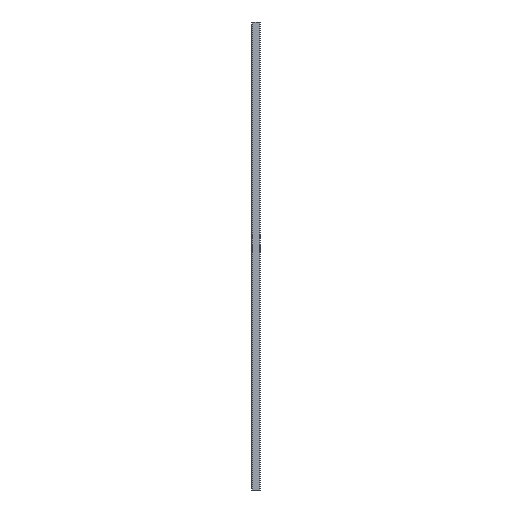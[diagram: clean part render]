
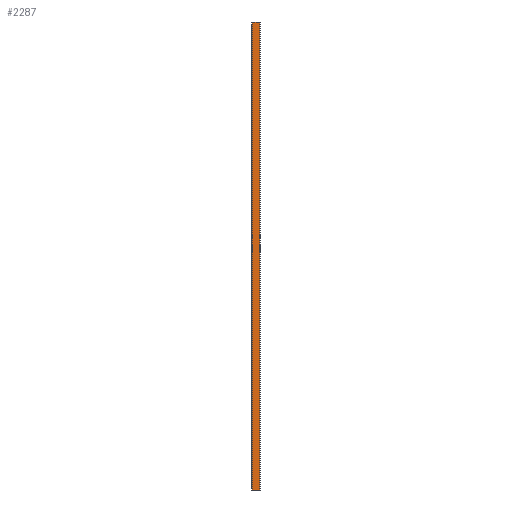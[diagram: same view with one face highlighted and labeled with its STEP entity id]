
A CAD part, left-side view. The second image highlights one B-rep face of the part: STEP entity #2287.
In plain terms, the highlighted planar face has unit normal (-1, 0, 0).
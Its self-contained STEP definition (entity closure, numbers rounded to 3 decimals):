
#65 = VERTEX_POINT ( 'NONE', #2348 ) ;
#80 = CARTESIAN_POINT ( 'NONE',  ( -8., 0., 0. ) ) ;
#112 = EDGE_CURVE ( 'NONE', #195, #1509, #1902, .T. ) ;
#167 = PLANE ( 'NONE',  #755 ) ;
#184 = FACE_OUTER_BOUND ( 'NONE', #631, .T. ) ;
#195 = VERTEX_POINT ( 'NONE', #908 ) ;
#202 = CARTESIAN_POINT ( 'NONE',  ( -8., 0., 679. ) ) ;
#224 = VECTOR ( 'NONE', #892, 1000. ) ;
#239 = EDGE_CURVE ( 'NONE', #2170, #645, #1327, .T. ) ;
#352 = DIRECTION ( 'NONE',  ( 0., 1., 0. ) ) ;
#369 = CARTESIAN_POINT ( 'NONE',  ( -8., 0., 0. ) ) ;
#552 = LINE ( 'NONE', #1422, #2351 ) ;
#631 = EDGE_LOOP ( 'NONE', ( #1636, #1175, #1451, #2086, #1094, #748, #1292, #1894 ) ) ;
#645 = VERTEX_POINT ( 'NONE', #1548 ) ;
#688 = DIRECTION ( 'NONE',  ( 0., 0., -1. ) ) ;
#748 = ORIENTED_EDGE ( 'NONE', *, *, #1922, .T. ) ;
#755 = AXIS2_PLACEMENT_3D ( 'NONE', #1016, #1898, #2758 ) ;
#770 = DIRECTION ( 'NONE',  ( 0., 1., 0. ) ) ;
#773 = CARTESIAN_POINT ( 'NONE',  ( -8., 12.5, 679. ) ) ;
#892 = DIRECTION ( 'NONE',  ( 0., 1., 0. ) ) ;
#908 = CARTESIAN_POINT ( 'NONE',  ( -8., 3.2, 679. ) ) ;
#912 = CARTESIAN_POINT ( 'NONE',  ( -8., 0., 0. ) ) ;
#938 = VECTOR ( 'NONE', #1448, 1000. ) ;
#1000 = LINE ( 'NONE', #369, #2475 ) ;
#1016 = CARTESIAN_POINT ( 'NONE',  ( -8., 0., 679. ) ) ;
#1075 = VECTOR ( 'NONE', #2047, 1000. ) ;
#1094 = ORIENTED_EDGE ( 'NONE', *, *, #1227, .T. ) ;
#1175 = ORIENTED_EDGE ( 'NONE', *, *, #1804, .T. ) ;
#1227 = EDGE_CURVE ( 'NONE', #195, #2439, #1512, .T. ) ;
#1292 = ORIENTED_EDGE ( 'NONE', *, *, #239, .T. ) ;
#1327 = LINE ( 'NONE', #2641, #1334 ) ;
#1329 = VERTEX_POINT ( 'NONE', #80 ) ;
#1334 = VECTOR ( 'NONE', #688, 1000. ) ;
#1382 = CARTESIAN_POINT ( 'NONE',  ( -8., 0., 679. ) ) ;
#1422 = CARTESIAN_POINT ( 'NONE',  ( -8., 12.5, 679. ) ) ;
#1426 = CARTESIAN_POINT ( 'NONE',  ( -8., 9.3, 0. ) ) ;
#1448 = DIRECTION ( 'NONE',  ( 0., 1., 0. ) ) ;
#1451 = ORIENTED_EDGE ( 'NONE', *, *, #2121, .F. ) ;
#1471 = EDGE_CURVE ( 'NONE', #65, #2202, #1000, .T. ) ;
#1509 = VERTEX_POINT ( 'NONE', #2296 ) ;
#1512 = LINE ( 'NONE', #2382, #224 ) ;
#1548 = CARTESIAN_POINT ( 'NONE',  ( -8., 12.5, 0. ) ) ;
#1636 = ORIENTED_EDGE ( 'NONE', *, *, #1471, .F. ) ;
#1801 = DIRECTION ( 'NONE',  ( 0., 0., -1. ) ) ;
#1804 = EDGE_CURVE ( 'NONE', #65, #1329, #2266, .T. ) ;
#1824 = VECTOR ( 'NONE', #1801, 1000. ) ;
#1831 = VECTOR ( 'NONE', #2761, 1000. ) ;
#1894 = ORIENTED_EDGE ( 'NONE', *, *, #2490, .F. ) ;
#1898 = DIRECTION ( 'NONE',  ( -1., 0., 0. ) ) ;
#1902 = LINE ( 'NONE', #202, #1831 ) ;
#1922 = EDGE_CURVE ( 'NONE', #2439, #2170, #552, .T. ) ;
#2047 = DIRECTION ( 'NONE',  ( 0., -1., 0. ) ) ;
#2086 = ORIENTED_EDGE ( 'NONE', *, *, #112, .F. ) ;
#2121 = EDGE_CURVE ( 'NONE', #1509, #1329, #2678, .T. ) ;
#2170 = VERTEX_POINT ( 'NONE', #773 ) ;
#2202 = VERTEX_POINT ( 'NONE', #1426 ) ;
#2266 = LINE ( 'NONE', #912, #1075 ) ;
#2287 = ADVANCED_FACE ( 'NONE', ( #184 ), #167, .T. ) ;
#2296 = CARTESIAN_POINT ( 'NONE',  ( -8., 0., 679. ) ) ;
#2332 = CARTESIAN_POINT ( 'NONE',  ( -8., 0., 0. ) ) ;
#2348 = CARTESIAN_POINT ( 'NONE',  ( -8., 3.2, 0. ) ) ;
#2351 = VECTOR ( 'NONE', #352, 1000. ) ;
#2382 = CARTESIAN_POINT ( 'NONE',  ( -8., 0., 679. ) ) ;
#2439 = VERTEX_POINT ( 'NONE', #2503 ) ;
#2475 = VECTOR ( 'NONE', #770, 1000. ) ;
#2490 = EDGE_CURVE ( 'NONE', #2202, #645, #2747, .T. ) ;
#2503 = CARTESIAN_POINT ( 'NONE',  ( -8., 9.3, 679. ) ) ;
#2641 = CARTESIAN_POINT ( 'NONE',  ( -8., 12.5, 679. ) ) ;
#2678 = LINE ( 'NONE', #1382, #1824 ) ;
#2747 = LINE ( 'NONE', #2332, #938 ) ;
#2758 = DIRECTION ( 'NONE',  ( 0., 0., 1. ) ) ;
#2761 = DIRECTION ( 'NONE',  ( 0., -1., 0. ) ) ;
